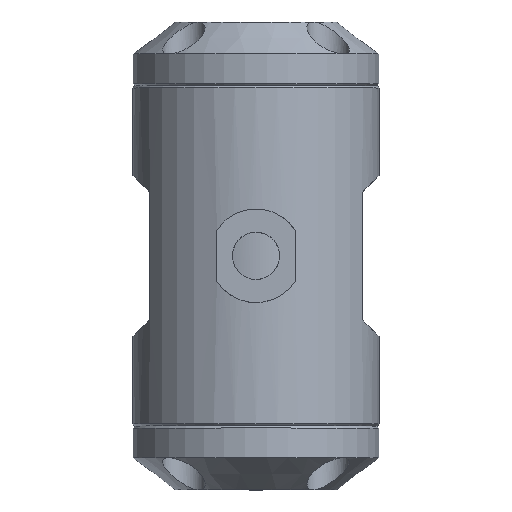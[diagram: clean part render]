
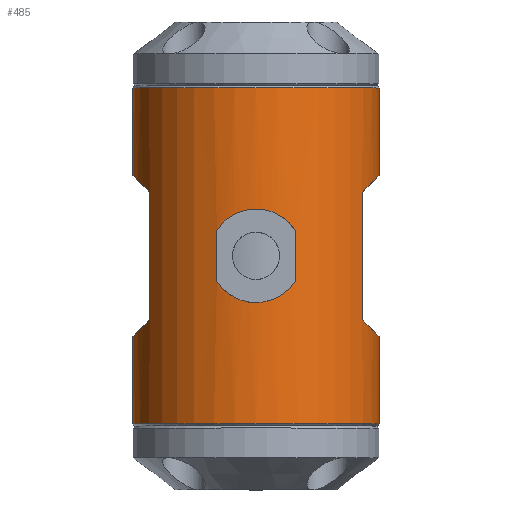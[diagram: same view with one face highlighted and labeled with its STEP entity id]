
A CAD part, top view. The second image highlights one B-rep face of the part: STEP entity #485.
In plain terms, the highlighted cylindrical face has radius 29 mm (diameter 58 mm), a full revolution.
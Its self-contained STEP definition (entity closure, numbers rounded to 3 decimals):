
#134=ELLIPSE('',#1514,41.012,29.);
#135=ELLIPSE('',#1515,41.012,29.);
#136=ELLIPSE('',#1517,41.012,29.);
#137=ELLIPSE('',#1518,41.012,29.);
#138=LINE('',#2279,#148);
#139=LINE('',#2284,#149);
#140=LINE('',#2292,#150);
#141=LINE('',#2296,#151);
#142=LINE('',#2309,#152);
#143=LINE('',#2322,#153);
#148=VECTOR('',#1762,1.);
#149=VECTOR('',#1765,1.);
#150=VECTOR('',#1772,1.);
#151=VECTOR('',#1775,1.);
#152=VECTOR('',#1776,1.);
#153=VECTOR('',#1777,1.);
#158=FACE_BOUND('',#671,.T.);
#159=FACE_BOUND('',#672,.T.);
#160=FACE_BOUND('',#673,.T.);
#161=FACE_BOUND('',#674,.T.);
#162=FACE_BOUND('',#675,.T.);
#361=CIRCLE('',#1513,29.);
#362=CIRCLE('',#1516,29.);
#485=ADVANCED_FACE('',(#158,#159,#160,#161,#162),#602,.T.);
#602=CYLINDRICAL_SURFACE('',#1519,29.);
#671=EDGE_LOOP('',(#891));
#672=EDGE_LOOP('',(#892,#893,#894,#895));
#673=EDGE_LOOP('',(#896));
#674=EDGE_LOOP('',(#897,#898,#899,#900));
#675=EDGE_LOOP('',(#901,#902,#903,#904));
#891=ORIENTED_EDGE('',*,*,#1337,.F.);
#892=ORIENTED_EDGE('',*,*,#1338,.F.);
#893=ORIENTED_EDGE('',*,*,#1339,.T.);
#894=ORIENTED_EDGE('',*,*,#1340,.F.);
#895=ORIENTED_EDGE('',*,*,#1341,.F.);
#896=ORIENTED_EDGE('',*,*,#1342,.T.);
#897=ORIENTED_EDGE('',*,*,#1343,.T.);
#898=ORIENTED_EDGE('',*,*,#1344,.F.);
#899=ORIENTED_EDGE('',*,*,#1345,.F.);
#900=ORIENTED_EDGE('',*,*,#1346,.F.);
#901=ORIENTED_EDGE('',*,*,#1347,.T.);
#902=ORIENTED_EDGE('',*,*,#1348,.T.);
#903=ORIENTED_EDGE('',*,*,#1349,.T.);
#904=ORIENTED_EDGE('',*,*,#1350,.T.);
#1203=VERTEX_POINT('',#2278);
#1204=VERTEX_POINT('',#2280);
#1205=VERTEX_POINT('',#2281);
#1206=VERTEX_POINT('',#2283);
#1207=VERTEX_POINT('',#2285);
#1208=VERTEX_POINT('',#2288);
#1209=VERTEX_POINT('',#2290);
#1210=VERTEX_POINT('',#2291);
#1211=VERTEX_POINT('',#2293);
#1212=VERTEX_POINT('',#2295);
#1213=VERTEX_POINT('',#2307);
#1214=VERTEX_POINT('',#2308);
#1215=VERTEX_POINT('',#2310);
#1216=VERTEX_POINT('',#2321);
#1337=EDGE_CURVE('',#1203,#1203,#361,.T.);
#1338=EDGE_CURVE('',#1204,#1205,#138,.T.);
#1339=EDGE_CURVE('',#1204,#1206,#134,.T.);
#1340=EDGE_CURVE('',#1207,#1206,#139,.T.);
#1341=EDGE_CURVE('',#1205,#1207,#135,.T.);
#1342=EDGE_CURVE('',#1208,#1208,#362,.T.);
#1343=EDGE_CURVE('',#1209,#1210,#136,.T.);
#1344=EDGE_CURVE('',#1211,#1210,#140,.T.);
#1345=EDGE_CURVE('',#1212,#1211,#137,.T.);
#1346=EDGE_CURVE('',#1209,#1212,#141,.T.);
#1347=EDGE_CURVE('',#1213,#1214,#1493,.T.);
#1348=EDGE_CURVE('',#1214,#1215,#142,.T.);
#1349=EDGE_CURVE('',#1215,#1216,#1494,.T.);
#1350=EDGE_CURVE('',#1216,#1213,#143,.T.);
#1493=B_SPLINE_CURVE_WITH_KNOTS('',3,(#2297,#2298,#2299,#2300,#2301,#2302,
#2303,#2304,#2305,#2306),.UNSPECIFIED.,.F.,.F.,(4,2,2,2,4),(0.,0.25,0.5,
0.75,1.),.UNSPECIFIED.);
#1494=B_SPLINE_CURVE_WITH_KNOTS('',3,(#2311,#2312,#2313,#2314,#2315,#2316,
#2317,#2318,#2319,#2320),.UNSPECIFIED.,.F.,.F.,(4,2,2,2,4),(0.,0.25,0.5,
0.75,1.),.UNSPECIFIED.);
#1513=AXIS2_PLACEMENT_3D('',#2277,#1760,#1761);
#1514=AXIS2_PLACEMENT_3D('',#2282,#1763,#1764);
#1515=AXIS2_PLACEMENT_3D('',#2286,#1766,#1767);
#1516=AXIS2_PLACEMENT_3D('',#2287,#1768,#1769);
#1517=AXIS2_PLACEMENT_3D('',#2289,#1770,#1771);
#1518=AXIS2_PLACEMENT_3D('',#2294,#1773,#1774);
#1519=AXIS2_PLACEMENT_3D('',#2323,#1778,#1779);
#1760=DIRECTION('',(0.,-1.,0.));
#1761=DIRECTION('',(0.,0.,1.));
#1762=DIRECTION('',(0.,1.,0.));
#1763=DIRECTION('',(-0.707,-0.707,0.));
#1764=DIRECTION('',(0.707,-0.707,0.));
#1765=DIRECTION('',(0.,-1.,0.));
#1766=DIRECTION('',(0.707,-0.707,0.));
#1767=DIRECTION('',(0.707,0.707,0.));
#1768=DIRECTION('',(0.,-1.,0.));
#1769=DIRECTION('',(0.,0.,1.));
#1770=DIRECTION('',(0.707,-0.707,0.));
#1771=DIRECTION('',(-0.707,-0.707,0.));
#1772=DIRECTION('',(0.,-1.,0.));
#1773=DIRECTION('',(-0.707,-0.707,0.));
#1774=DIRECTION('',(-0.707,0.707,0.));
#1775=DIRECTION('',(0.,1.,0.));
#1776=DIRECTION('',(0.,-1.,0.));
#1777=DIRECTION('',(0.,1.,0.));
#1778=DIRECTION('',(0.,1.,0.));
#1779=DIRECTION('',(0.,0.,1.));
#2277=CARTESIAN_POINT('',(0.,-39.5,0.));
#2278=CARTESIAN_POINT('',(0.,-39.5,29.));
#2279=CARTESIAN_POINT('',(25.,0.,-14.697));
#2280=CARTESIAN_POINT('',(25.,-15.,-14.697));
#2281=CARTESIAN_POINT('',(25.,15.,-14.697));
#2282=CARTESIAN_POINT('',(0.,10.,0.));
#2283=CARTESIAN_POINT('',(25.,-15.,14.697));
#2284=CARTESIAN_POINT('',(25.,0.,14.697));
#2285=CARTESIAN_POINT('',(25.,15.,14.697));
#2286=CARTESIAN_POINT('',(0.,-10.,0.));
#2287=CARTESIAN_POINT('',(0.,39.5,0.));
#2288=CARTESIAN_POINT('',(0.,39.5,29.));
#2289=CARTESIAN_POINT('',(0.,10.,0.));
#2290=CARTESIAN_POINT('',(-25.,-15.,14.697));
#2291=CARTESIAN_POINT('',(-25.,-15.,-14.697));
#2292=CARTESIAN_POINT('',(-25.,0.,-14.697));
#2293=CARTESIAN_POINT('',(-25.,15.,-14.697));
#2294=CARTESIAN_POINT('',(0.,-10.,0.));
#2295=CARTESIAN_POINT('',(-25.,15.,14.697));
#2296=CARTESIAN_POINT('',(-25.,0.,14.697));
#2297=CARTESIAN_POINT('',(-9.206,6.021,27.5));
#2298=CARTESIAN_POINT('',(-8.207,7.548,27.834));
#2299=CARTESIAN_POINT('',(-6.849,8.795,28.226));
#2300=CARTESIAN_POINT('',(-3.68,10.522,28.811));
#2301=CARTESIAN_POINT('',(-1.856,10.998,28.999));
#2302=CARTESIAN_POINT('',(1.837,11.002,29.001));
#2303=CARTESIAN_POINT('',(3.671,10.526,28.812));
#2304=CARTESIAN_POINT('',(6.849,8.796,28.226));
#2305=CARTESIAN_POINT('',(8.207,7.548,27.834));
#2306=CARTESIAN_POINT('',(9.206,6.021,27.5));
#2307=CARTESIAN_POINT('',(-9.206,6.021,27.5));
#2308=CARTESIAN_POINT('',(9.206,6.021,27.5));
#2309=CARTESIAN_POINT('',(9.206,0.,27.5));
#2310=CARTESIAN_POINT('',(9.206,-6.021,27.5));
#2311=CARTESIAN_POINT('',(9.206,-6.021,27.5));
#2312=CARTESIAN_POINT('',(8.207,-7.548,27.834));
#2313=CARTESIAN_POINT('',(6.849,-8.795,28.226));
#2314=CARTESIAN_POINT('',(3.68,-10.522,28.811));
#2315=CARTESIAN_POINT('',(1.856,-10.998,28.999));
#2316=CARTESIAN_POINT('',(-1.837,-11.002,29.001));
#2317=CARTESIAN_POINT('',(-3.671,-10.526,28.812));
#2318=CARTESIAN_POINT('',(-6.849,-8.796,28.226));
#2319=CARTESIAN_POINT('',(-8.207,-7.548,27.834));
#2320=CARTESIAN_POINT('',(-9.206,-6.021,27.5));
#2321=CARTESIAN_POINT('',(-9.206,-6.021,27.5));
#2322=CARTESIAN_POINT('',(-9.206,0.,27.5));
#2323=CARTESIAN_POINT('',(0.,0.,0.));
